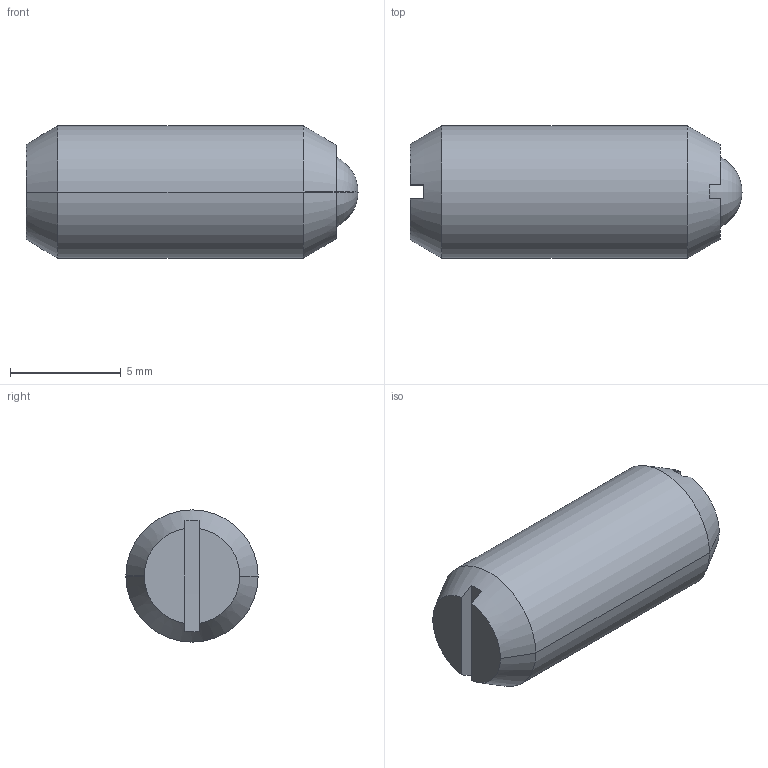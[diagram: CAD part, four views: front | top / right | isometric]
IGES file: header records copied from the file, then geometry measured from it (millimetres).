
Start section:  PTC IGES file: bm6a-part-3d.igs
Global section: file name: bm6a-part-3d.igs; native system: Pro/ENGINEER by Parametric Technology Corporation; preprocessor: 2002350; author: chant; organization: Unknown; date: 070201.135319; units: inch
Bounding box: 14.99 x 5.97 x 5.97 mm (x, y, z)
Surface area: 432.9 mm2 (no closed solid volume)
Topology: 0 solids, 0 shells, 24 faces, 174 edges, 220 vertices
Faces by surface type: revolution 13, bspline 11
